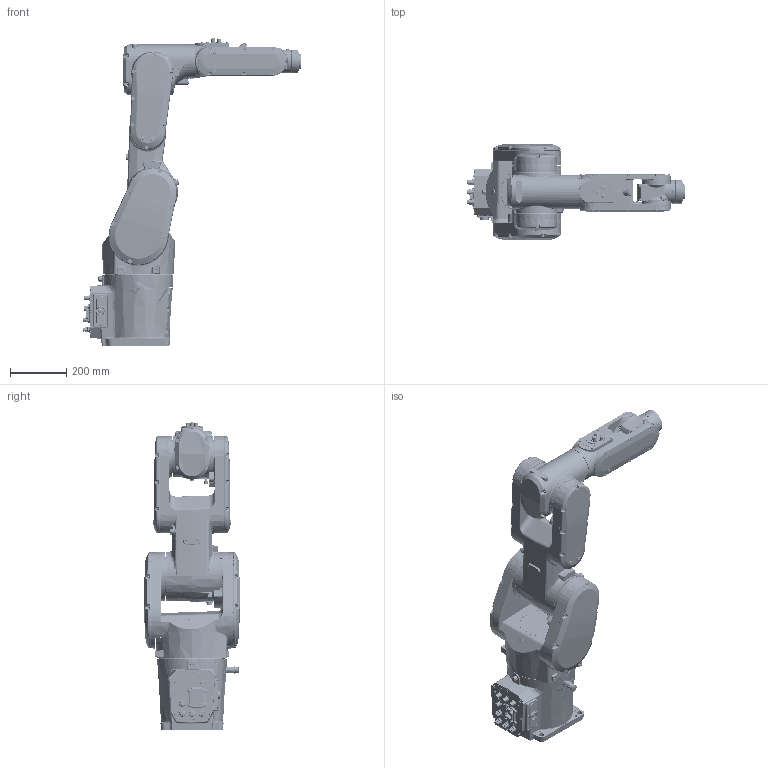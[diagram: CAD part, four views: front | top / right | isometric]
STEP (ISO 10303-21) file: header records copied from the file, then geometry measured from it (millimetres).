
FILE_DESCRIPTION (( 'STEP AP214' ), '1' );
FILE_NAME ('IRB1300 Type A_11Kg-900-Foundry-STD_OC_00_asm.STEP', '2026-05-19T13:04:08', ( '' ), ( '' ), 'SwSTEP 2.0', 'SolidWorks 2024', '' );
FILE_SCHEMA (( 'AUTOMOTIVE_DESIGN' ));
Length unit declared in the file: millimetre
Products named in the file (8): IRB1300 Type A_11Kg-900-Foundry-STD_OC_00_link0; IRB1300 Type A_11Kg-900-Foundry-STD_OC_00_link5; IRB1300 Type A_11Kg-900-Foundry-STD_OC_00_link3; IRB1300 Type A_11Kg-900-Foundry-STD_OC_00_asm; IRB1300 Type A_11Kg-900-Foundry-STD_OC_00_link2; IRB1300 Type A_11Kg-900-Foundry-STD_OC_00_link6; IRB1300 Type A_11Kg-900-Foundry-STD_OC_00_link1; IRB1300 Type A_11Kg-900-Foundry-STD_OC_00_link4
Assembly tree (7 placements, depth 2):
  IRB1300 Type A_11Kg-900-Foundry-STD_OC_00_asm
    IRB1300 Type A_11Kg-900-Foundry-STD_OC_00_link0
    IRB1300 Type A_11Kg-900-Foundry-STD_OC_00_link1
    IRB1300 Type A_11Kg-900-Foundry-STD_OC_00_link2
    IRB1300 Type A_11Kg-900-Foundry-STD_OC_00_link3
    IRB1300 Type A_11Kg-900-Foundry-STD_OC_00_link4
    IRB1300 Type A_11Kg-900-Foundry-STD_OC_00_link5
    IRB1300 Type A_11Kg-900-Foundry-STD_OC_00_link6
Bounding box: 771 x 340 x 1090.73 mm (x, y, z)
Volume: 50303493.3 mm3; surface area: 1861425.9 mm2
Topology: 7 solids, 19 shells, 6982 faces, 17213 edges, 10573 vertices
Faces by surface type: plane 2145, bspline 2048, cylinder 1574, cone 582, torus 517, sphere 116
Entity records: 325697 total; most frequent: CARTESIAN_POINT 176214, ORIENTED_EDGE 34124, DIRECTION 26340, EDGE_CURVE 17062, VERTEX_POINT 10566, AXIS2_PLACEMENT_3D 9907, EDGE_LOOP 7458, FACE_OUTER_BOUND 6982
